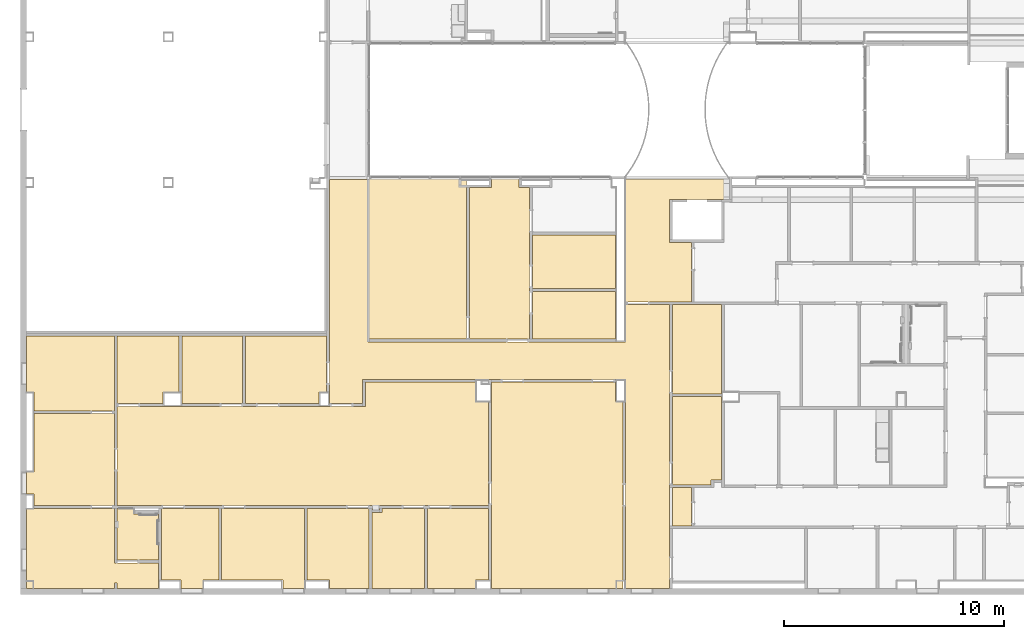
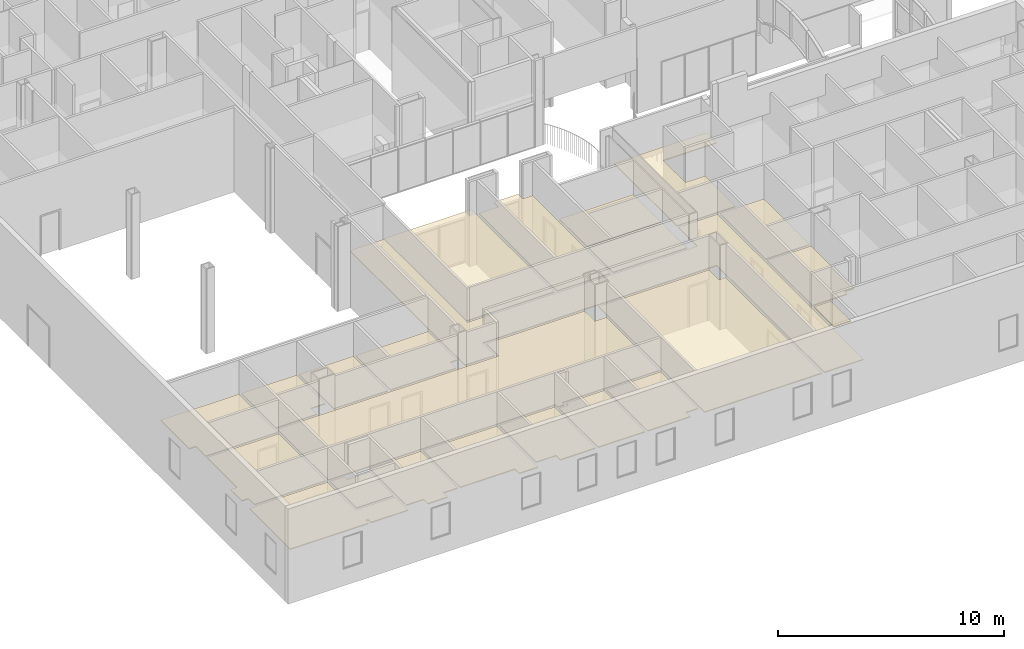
# One storey, part 25 of 45: 23 coverings.
"""IFC2X3 building model written with IfcOpenShell, lengths in metres."""

from ifc_helpers import new_model, entity, si_unit, converted_unit, frame, origin, place, context, project, spatial, face_set, surface_model, material, layer, layer_set, layer_usage, element, save


model = new_model("IFC2X3")

# Units and contexts
model_context = context("Model", 3, precision=1e-09, world=origin())
plan_context = context("Plan", 3, precision=1e-09, world=origin())
ifc_project = project(units=[si_unit("LENGTHUNIT", "METRE"), si_unit("AREAUNIT", "SQUARE_METRE"), si_unit("VOLUMEUNIT", "CUBIC_METRE"), converted_unit("PLANEANGLEUNIT", "DEGREE", entity("IfcRatioMeasure", 0.01745329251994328), si_unit("PLANEANGLEUNIT", "RADIAN"), dimensions=[0, 0, 0, 0, 0, 0, 0]), si_unit("TIMEUNIT", "SECOND")], contexts=[model_context, plan_context])

# Site, building, storey
site_placement = place(None, origin())
site = spatial("IfcSite", under=ifc_project, at=site_placement, Name="Default", CompositionType="ELEMENT")
building_placement = place(site_placement, origin())
building = spatial("IfcBuilding", under=site, at=building_placement, CompositionType="ELEMENT")
storey_placement = place(building_placement, frame((0.0, 0.0, 4.570000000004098)))
storey = spatial("IfcBuildingStorey", under=building, at=storey_placement, Name="Second Floor", CompositionType="ELEMENT", Elevation=4.570000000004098)

# Coverings
ifc_material_1 = material(Name="Default")
ifc_layer_1 = layer(ifc_material_1, 0.03599999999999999)
ifc_material_2 = material(Name="Ceiling Tile 600 x 600")
ifc_layer_2 = layer(ifc_material_2, 0.016)
ifc_layer_set = layer_set([ifc_layer_1, ifc_layer_2], Name="Compound Ceiling:ACT 600 x 600mm Grid")
ifc_layer_usage = layer_usage(ifc_layer_set, "AXIS3", "NEGATIVE", 0.0)
covering_1_placement = place(storey_placement, origin())
element("IfcCovering", 1, at=covering_1_placement, inside=storey, material=ifc_layer_usage, Name="Compound Ceiling:ACT 600 x 600mm Grid", ObjectType="Compound Ceiling:ACT 600 x 600mm Grid", PredefinedType="CEILING", context=model_context, shape_type="SurfaceModel", body=[
    surface_model("IfcFaceBasedSurfaceModel", [(-19.83000000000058, 22.97443871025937, 2.732000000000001), (-19.83000000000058, 28.54543871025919, 2.732000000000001), (-15.10997500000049, 28.54543871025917, 2.732000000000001), (-15.1099750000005, 27.64589999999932, 2.732000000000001), (-17.82920000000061, 27.64589999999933, 2.732000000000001), (-17.82920000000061, 25.68339999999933, 2.732000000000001), (-16.83000000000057, 25.68339999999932, 2.732000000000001), (-16.83000000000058, 22.97443871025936, 2.732000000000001), (-19.83000000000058, 22.97443871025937, 2.680000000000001), (-19.83000000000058, 28.54543871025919, 2.680000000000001), (-15.10997500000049, 28.54543871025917, 2.680000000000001), (-15.1099750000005, 27.64589999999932, 2.680000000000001), (-17.82920000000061, 27.64589999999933, 2.680000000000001), (-17.82920000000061, 25.68339999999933, 2.680000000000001), (-16.83000000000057, 25.68339999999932, 2.680000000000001), (-16.83000000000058, 22.97443871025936, 2.680000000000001)], [face_set([[[0, 1, 2, 3, 4, 5, 6, 7]], [[8, 9, 10, 11, 12, 13, 14, 15]], [[7, 0, 8, 15]], [[6, 7, 15, 14]], [[5, 13, 14, 6]], [[4, 5, 13, 12]], [[3, 4, 12, 11]], [[2, 3, 11, 10]], [[1, 9, 10, 2]], [[0, 8, 9, 1]]])]),
])
covering_2_placement = place(storey_placement, origin())
element("IfcCovering", 2, at=covering_2_placement, inside=storey, material=ifc_layer_usage, Name="Compound Ceiling:ACT 600 x 600mm Grid", ObjectType="Compound Ceiling:ACT 600 x 600mm Grid", PredefinedType="CEILING", context=model_context, shape_type="SurfaceModel", body=[
    surface_model("IfcFaceBasedSurfaceModel", [(-24.07100000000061, 21.27843871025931, 2.732000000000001), (-24.0710000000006, 23.4604387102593, 2.732000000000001), (-20.29000000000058, 23.46043871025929, 2.732000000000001), (-20.29000000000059, 21.27843871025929, 2.732000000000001), (-24.07100000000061, 21.27843871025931, 2.680000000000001), (-24.0710000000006, 23.4604387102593, 2.680000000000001), (-20.29000000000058, 23.46043871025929, 2.680000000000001), (-20.29000000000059, 21.27843871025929, 2.680000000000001)], [face_set([[[0, 1, 2, 3]], [[4, 5, 6, 7]], [[3, 0, 4, 7]], [[2, 3, 7, 6]], [[1, 5, 6, 2]], [[0, 4, 5, 1]]])]),
])
covering_3_placement = place(storey_placement, origin())
element("IfcCovering", 3, at=covering_3_placement, inside=storey, material=ifc_layer_usage, Name="Compound Ceiling:ACT 600 x 600mm Grid", ObjectType="Compound Ceiling:ACT 600 x 600mm Grid", PredefinedType="CEILING", context=model_context, shape_type="SurfaceModel", body=[
    surface_model("IfcFaceBasedSurfaceModel", [(-20.29000000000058, 23.58443871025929, 2.732000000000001), (-24.0710000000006, 23.5844387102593, 2.732000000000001), (-24.0710000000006, 26.0244387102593, 2.732000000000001), (-20.29000000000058, 26.02443871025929, 2.732000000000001), (-20.29000000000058, 23.58443871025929, 2.680000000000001), (-24.0710000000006, 23.5844387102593, 2.680000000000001), (-24.0710000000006, 26.0244387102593, 2.680000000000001), (-20.29000000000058, 26.02443871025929, 2.680000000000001)], [face_set([[[0, 1, 2, 3]], [[4, 5, 6, 7]], [[3, 0, 4, 7]], [[2, 6, 7, 3]], [[1, 5, 6, 2]], [[0, 1, 5, 4]]])]),
])
covering_4_placement = place(storey_placement, origin())
element("IfcCovering", 4, at=covering_4_placement, inside=storey, material=ifc_layer_usage, Name="Compound Ceiling:ACT 600 x 600mm Grid", ObjectType="Compound Ceiling:ACT 600 x 600mm Grid", PredefinedType="CEILING", context=model_context, shape_type="SurfaceModel", body=[
    surface_model("IfcFaceBasedSurfaceModel", [(-31.55100000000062, 21.27843871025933, 2.732000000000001), (-31.55100000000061, 28.60743871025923, 2.732000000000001), (-27.06500000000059, 28.60743871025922, 2.732000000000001), (-27.0650000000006, 21.27843871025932, 2.732000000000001), (-31.55100000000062, 21.27843871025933, 2.680000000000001), (-31.55100000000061, 28.60743871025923, 2.680000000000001), (-27.06500000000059, 28.60743871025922, 2.680000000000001), (-27.0650000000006, 21.27843871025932, 2.680000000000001)], [face_set([[[0, 1, 2, 3]], [[4, 5, 6, 7]], [[3, 0, 4, 7]], [[2, 3, 7, 6]], [[1, 5, 6, 2]], [[0, 4, 5, 1]]])]),
])
covering_5_placement = place(storey_placement, origin())
element("IfcCovering", 5, at=covering_5_placement, inside=storey, material=ifc_layer_usage, Name="Compound Ceiling:ACT 600 x 600mm Grid", ObjectType="Compound Ceiling:ACT 600 x 600mm Grid", PredefinedType="CEILING", context=model_context, shape_type="SurfaceModel", body=[
    surface_model("IfcFaceBasedSurfaceModel", [(-43.11000000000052, 13.58043871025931, 2.732000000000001), (-43.11000000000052, 11.09443871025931, 2.732000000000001), (-41.09000000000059, 11.0944387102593, 2.732000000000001), (-41.09000000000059, 9.926999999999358, 2.732000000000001), (-42.98600000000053, 9.926999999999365, 2.732000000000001), (-42.98600000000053, 10.1794387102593, 2.732000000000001), (-43.11000000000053, 10.1794387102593, 2.732000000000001), (-43.11000000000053, 9.926999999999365, 2.732000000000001), (-47.11300000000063, 9.926999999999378, 2.732000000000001), (-47.11300000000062, 13.5384387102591, 2.732000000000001), (-46.77000000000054, 13.5384387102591, 2.732000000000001), (-46.77000000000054, 13.58043871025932, 2.732000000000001), (-43.11000000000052, 13.58043871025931, 2.680000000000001), (-46.77000000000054, 13.58043871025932, 2.680000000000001), (-46.77000000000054, 13.5384387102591, 2.680000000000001), (-47.11300000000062, 13.5384387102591, 2.680000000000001), (-47.11300000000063, 9.926999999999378, 2.680000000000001), (-43.11000000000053, 9.926999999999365, 2.680000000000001), (-43.11000000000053, 10.1794387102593, 2.680000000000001), (-42.98600000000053, 10.1794387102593, 2.680000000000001), (-42.98600000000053, 9.926999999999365, 2.680000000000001), (-41.09000000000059, 9.926999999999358, 2.680000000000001), (-41.09000000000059, 11.0944387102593, 2.680000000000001), (-43.11000000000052, 11.09443871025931, 2.680000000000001)], [face_set([[[0, 1, 2, 3, 4, 5, 6, 7, 8, 9, 10, 11]], [[12, 13, 14, 15, 16, 17, 18, 19, 20, 21, 22, 23]], [[11, 13, 12, 0]], [[10, 14, 13, 11]], [[9, 15, 14, 10]], [[8, 16, 15, 9]], [[7, 8, 16, 17]], [[6, 7, 17, 18]], [[5, 6, 18, 19]], [[4, 20, 19, 5]], [[3, 4, 20, 21]], [[2, 3, 21, 22]], [[1, 23, 22, 2]], [[0, 1, 23, 12]]])]),
])
covering_6_placement = place(storey_placement, origin())
element("IfcCovering", 6, at=covering_6_placement, inside=storey, material=ifc_layer_usage, Name="Compound Ceiling:ACT 600 x 600mm Grid", ObjectType="Compound Ceiling:ACT 600 x 600mm Grid", PredefinedType="CEILING", context=model_context, shape_type="SurfaceModel", body=[
    surface_model("IfcFaceBasedSurfaceModel", [(-25.93000000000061, 28.18443871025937, 2.732000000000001), (-25.93000000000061, 28.60743871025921, 2.732000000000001), (-24.6797500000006, 28.60743871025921, 2.732000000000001), (-24.6797500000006, 28.18443871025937, 2.732000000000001), (-24.19500000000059, 28.18443871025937, 2.732000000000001), (-24.1950000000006, 21.27843871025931, 2.732000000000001), (-26.9410000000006, 21.27843871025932, 2.732000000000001), (-26.94100000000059, 28.18443871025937, 2.732000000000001), (-25.93000000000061, 28.18443871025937, 2.680000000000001), (-25.93000000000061, 28.60743871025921, 2.680000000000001), (-24.6797500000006, 28.60743871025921, 2.680000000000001), (-24.6797500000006, 28.18443871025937, 2.680000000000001), (-24.19500000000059, 28.18443871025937, 2.680000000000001), (-24.1950000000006, 21.27843871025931, 2.680000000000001), (-26.9410000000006, 21.27843871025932, 2.680000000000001), (-26.94100000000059, 28.18443871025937, 2.680000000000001)], [face_set([[[0, 1, 2, 3, 4, 5, 6, 7]], [[8, 9, 10, 11, 12, 13, 14, 15]], [[7, 15, 8, 0]], [[6, 14, 15, 7]], [[5, 6, 14, 13]], [[4, 5, 13, 12]], [[3, 11, 12, 4]], [[2, 3, 11, 10]], [[1, 9, 10, 2]], [[0, 8, 9, 1]]])]),
])
covering_7_placement = place(storey_placement, origin())
element("IfcCovering", 7, at=covering_7_placement, inside=storey, material=ifc_layer_usage, Name="Compound Ceiling:ACT 600 x 600mm Grid", ObjectType="Compound Ceiling:ACT 600 x 600mm Grid", PredefinedType="CEILING", context=model_context, shape_type="SurfaceModel", body=[
    surface_model("IfcFaceBasedSurfaceModel", [(-31.50900000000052, 9.926999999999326, 2.732000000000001), (-33.3200000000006, 9.926999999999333, 2.732000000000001), (-33.3200000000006, 10.30433433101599, 2.732000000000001), (-34.33004823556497, 10.30433433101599, 2.732000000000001), (-34.33004823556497, 13.58043871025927, 2.732000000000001), (-31.50900000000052, 13.58043871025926, 2.732000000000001), (-31.50900000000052, 9.926999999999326, 2.680000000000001), (-33.3200000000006, 9.926999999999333, 2.680000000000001), (-33.3200000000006, 10.30433433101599, 2.680000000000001), (-34.33004823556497, 10.30433433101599, 2.680000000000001), (-34.33004823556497, 13.58043871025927, 2.680000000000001), (-31.50900000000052, 13.58043871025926, 2.680000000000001)], [face_set([[[0, 1, 2, 3, 4, 5]], [[6, 7, 8, 9, 10, 11]], [[5, 0, 6, 11]], [[4, 10, 11, 5]], [[3, 9, 10, 4]], [[2, 3, 9, 8]], [[1, 7, 8, 2]], [[0, 1, 7, 6]]])]),
])
covering_8_placement = place(storey_placement, origin())
element("IfcCovering", 8, at=covering_8_placement, inside=storey, material=ifc_layer_usage, Name="Compound Ceiling:ACT 600 x 600mm Grid", ObjectType="Compound Ceiling:ACT 600 x 600mm Grid", PredefinedType="CEILING", context=model_context, shape_type="SurfaceModel", body=[
    surface_model("IfcFaceBasedSurfaceModel", [(-37.14000000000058, 21.41443871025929, 2.732000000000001), (-33.44400000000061, 21.41443871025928, 2.732000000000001), (-33.44400000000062, 18.87443871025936, 2.732000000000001), (-33.78000000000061, 18.87443871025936, 2.732000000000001), (-33.78000000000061, 18.34843871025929, 2.732000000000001), (-37.14000000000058, 18.3484387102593, 2.732000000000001), (-37.14000000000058, 21.41443871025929, 2.680000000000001), (-33.44400000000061, 21.41443871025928, 2.680000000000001), (-33.44400000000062, 18.87443871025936, 2.680000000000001), (-33.78000000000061, 18.87443871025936, 2.680000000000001), (-33.78000000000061, 18.34843871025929, 2.680000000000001), (-37.14000000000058, 18.3484387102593, 2.680000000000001)], [face_set([[[0, 1, 2, 3, 4, 5]], [[6, 7, 8, 9, 10, 11]], [[5, 11, 6, 0]], [[4, 5, 11, 10]], [[3, 4, 10, 9]], [[2, 3, 9, 8]], [[1, 2, 8, 7]], [[0, 6, 7, 1]]])]),
])
covering_9_placement = place(storey_placement, origin())
element("IfcCovering", 9, at=covering_9_placement, inside=storey, material=ifc_layer_usage, Name="Compound Ceiling:ACT 600 x 600mm Grid", ObjectType="Compound Ceiling:ACT 600 x 600mm Grid", PredefinedType="CEILING", context=model_context, shape_type="SurfaceModel", body=[
    surface_model("IfcFaceBasedSurfaceModel", [(-42.98600000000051, 13.5804387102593, 2.732000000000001), (-42.24330308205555, 13.5804387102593, 2.732000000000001), (-42.24330308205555, 13.32443871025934, 2.732000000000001), (-41.09000000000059, 13.32443871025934, 2.732000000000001), (-41.09000000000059, 11.21843871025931, 2.732000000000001), (-42.98600000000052, 11.21843871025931, 2.732000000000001), (-42.98600000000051, 13.5804387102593, 2.680000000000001), (-42.24330308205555, 13.5804387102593, 2.680000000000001), (-42.24330308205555, 13.32443871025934, 2.680000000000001), (-41.09000000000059, 13.32443871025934, 2.680000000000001), (-41.09000000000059, 11.21843871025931, 2.680000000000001), (-42.98600000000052, 11.21843871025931, 2.680000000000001)], [face_set([[[0, 1, 2, 3, 4, 5]], [[6, 7, 8, 9, 10, 11]], [[5, 11, 6, 0]], [[4, 5, 11, 10]], [[3, 4, 10, 9]], [[2, 8, 9, 3]], [[1, 2, 8, 7]], [[0, 6, 7, 1]]])]),
])
covering_10_placement = place(storey_placement, origin())
element("IfcCovering", 10, at=covering_10_placement, inside=storey, material=ifc_layer_usage, Name="Compound Ceiling:ACT 600 x 600mm Grid", ObjectType="Compound Ceiling:ACT 600 x 600mm Grid", PredefinedType="CEILING", context=model_context, shape_type="SurfaceModel", body=[
    surface_model("IfcFaceBasedSurfaceModel", [(-47.11300000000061, 18.87443871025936, 2.732000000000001), (-46.77000000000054, 18.87443871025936, 2.732000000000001), (-46.77000000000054, 18.01443871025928, 2.732000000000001), (-43.11000000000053, 18.01443871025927, 2.732000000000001), (-43.11000000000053, 21.41443871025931, 2.732000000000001), (-47.11300000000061, 21.41443871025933, 2.732000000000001), (-47.11300000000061, 18.87443871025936, 2.680000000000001), (-47.11300000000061, 21.41443871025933, 2.680000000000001), (-43.11000000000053, 21.41443871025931, 2.680000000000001), (-43.11000000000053, 18.01443871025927, 2.680000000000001), (-46.77000000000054, 18.01443871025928, 2.680000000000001), (-46.77000000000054, 18.87443871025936, 2.680000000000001)], [face_set([[[0, 1, 2, 3, 4, 5]], [[6, 7, 8, 9, 10, 11]], [[2, 10, 11, 1]], [[3, 2, 10, 9]], [[4, 3, 9, 8]], [[5, 7, 8, 4]], [[0, 6, 7, 5]], [[1, 0, 6, 11]]])]),
])
covering_11_placement = place(storey_placement, origin())
element("IfcCovering", 11, at=covering_11_placement, inside=storey, material=ifc_layer_usage, Name="Compound Ceiling:ACT 600 x 600mm Grid", ObjectType="Compound Ceiling:ACT 600 x 600mm Grid", PredefinedType="CEILING", context=model_context, shape_type="SurfaceModel", body=[
    surface_model("IfcFaceBasedSurfaceModel", [(-26.6700000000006, 9.926999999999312, 2.732000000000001), (-26.6700000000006, 10.30443871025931, 2.732000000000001), (-26.06400000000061, 10.3044387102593, 2.732000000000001), (-26.0640000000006, 13.58043871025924, 2.732000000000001), (-28.85500000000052, 13.58043871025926, 2.732000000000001), (-28.85500000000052, 9.92699999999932, 2.732000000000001), (-26.6700000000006, 9.926999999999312, 2.680000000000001), (-28.85500000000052, 9.92699999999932, 2.680000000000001), (-28.85500000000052, 13.58043871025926, 2.680000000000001), (-26.0640000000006, 13.58043871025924, 2.680000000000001), (-26.06400000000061, 10.3044387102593, 2.680000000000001), (-26.6700000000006, 10.30443871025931, 2.680000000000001)], [face_set([[[0, 1, 2, 3, 4, 5]], [[6, 7, 8, 9, 10, 11]], [[2, 1, 11, 10]], [[3, 2, 10, 9]], [[4, 8, 9, 3]], [[5, 7, 8, 4]], [[0, 5, 7, 6]], [[1, 0, 6, 11]]])]),
])
covering_12_placement = place(storey_placement, origin())
element("IfcCovering", 12, at=covering_12_placement, inside=storey, material=ifc_layer_usage, Name="Compound Ceiling:ACT 600 x 600mm Grid", ObjectType="Compound Ceiling:ACT 600 x 600mm Grid", PredefinedType="CEILING", context=model_context, shape_type="SurfaceModel", body=[
    surface_model("IfcFaceBasedSurfaceModel", [(-37.26400000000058, 18.3484387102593, 2.732000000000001), (-40.03500000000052, 18.34843871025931, 2.732000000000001), (-40.03500000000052, 21.4144387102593, 2.732000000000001), (-37.26400000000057, 21.41443871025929, 2.732000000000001), (-37.26400000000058, 18.3484387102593, 2.680000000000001), (-40.03500000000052, 18.34843871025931, 2.680000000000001), (-40.03500000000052, 21.4144387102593, 2.680000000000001), (-37.26400000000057, 21.41443871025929, 2.680000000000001)], [face_set([[[0, 1, 2, 3]], [[4, 5, 6, 7]], [[3, 0, 4, 7]], [[2, 6, 7, 3]], [[1, 5, 6, 2]], [[0, 1, 5, 4]]])]),
])
covering_13_placement = place(storey_placement, origin())
element("IfcCovering", 13, at=covering_13_placement, inside=storey, material=ifc_layer_usage, Name="Compound Ceiling:ACT 600 x 600mm Grid", ObjectType="Compound Ceiling:ACT 600 x 600mm Grid", PredefinedType="CEILING", context=model_context, shape_type="SurfaceModel", body=[
    surface_model("IfcFaceBasedSurfaceModel", [(-39.08330308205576, 9.926999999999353, 2.732000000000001), (-39.08330308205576, 10.30433433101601, 2.732000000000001), (-38.34400000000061, 10.30433433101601, 2.732000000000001), (-38.34400000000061, 13.58043871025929, 2.732000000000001), (-40.96600000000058, 13.58043871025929, 2.732000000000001), (-40.96600000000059, 10.30433433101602, 2.732000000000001), (-40.08330308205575, 10.30433433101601, 2.732000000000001), (-40.08330308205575, 9.926999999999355, 2.732000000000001), (-39.08330308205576, 9.926999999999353, 2.680000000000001), (-40.08330308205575, 9.926999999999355, 2.680000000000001), (-40.08330308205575, 10.30433433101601, 2.680000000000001), (-40.96600000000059, 10.30433433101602, 2.680000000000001), (-40.96600000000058, 13.58043871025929, 2.680000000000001), (-38.34400000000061, 13.58043871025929, 2.680000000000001), (-38.34400000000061, 10.30433433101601, 2.680000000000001), (-39.08330308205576, 10.30433433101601, 2.680000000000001)], [face_set([[[0, 1, 2, 3, 4, 5, 6, 7]], [[8, 9, 10, 11, 12, 13, 14, 15]], [[2, 1, 15, 14]], [[3, 2, 14, 13]], [[4, 12, 13, 3]], [[5, 11, 12, 4]], [[6, 5, 11, 10]], [[7, 9, 10, 6]], [[0, 7, 9, 8]], [[1, 0, 8, 15]]])]),
])
covering_14_placement = place(storey_placement, origin())
element("IfcCovering", 14, at=covering_14_placement, inside=storey, material=ifc_layer_usage, Name="Compound Ceiling:ACT 600 x 600mm Grid", ObjectType="Compound Ceiling:ACT 600 x 600mm Grid", PredefinedType="CEILING", context=model_context, shape_type="SurfaceModel", body=[
    surface_model("IfcFaceBasedSurfaceModel", [(-17.83000000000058, 12.7864387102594, 2.732000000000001), (-17.83000000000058, 9.926999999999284, 2.732000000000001), (-19.8300000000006, 9.926999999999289, 2.732000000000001), (-19.83000000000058, 19.44443871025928, 2.732000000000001), (-31.80000000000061, 19.44443871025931, 2.732000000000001), (-31.80000000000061, 18.34843871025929, 2.732000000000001), (-33.32000000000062, 18.34843871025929, 2.732000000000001), (-33.3200000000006, 28.55843871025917, 2.732000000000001), (-31.55100000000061, 28.55843871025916, 2.732000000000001), (-31.55100000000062, 21.15443871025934, 2.732000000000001), (-19.83000000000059, 21.1544387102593, 2.732000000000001), (-19.83000000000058, 22.85043871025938, 2.732000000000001), (-17.83000000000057, 22.85043871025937, 2.732000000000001), (-17.83000000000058, 14.58643871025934, 2.732000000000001), (-17.83000000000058, 12.7864387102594, 2.680000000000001), (-17.83000000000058, 9.926999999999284, 2.680000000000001), (-19.8300000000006, 9.926999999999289, 2.680000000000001), (-19.83000000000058, 19.44443871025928, 2.680000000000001), (-31.80000000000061, 19.44443871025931, 2.680000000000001), (-31.80000000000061, 18.34843871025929, 2.680000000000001), (-33.32000000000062, 18.34843871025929, 2.680000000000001), (-33.3200000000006, 28.55843871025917, 2.680000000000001), (-31.55100000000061, 28.55843871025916, 2.680000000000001), (-31.55100000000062, 21.15443871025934, 2.680000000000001), (-19.83000000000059, 21.1544387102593, 2.680000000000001), (-19.83000000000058, 22.85043871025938, 2.680000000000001), (-17.83000000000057, 22.85043871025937, 2.680000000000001), (-17.83000000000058, 14.58643871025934, 2.680000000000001)], [face_set([[[0, 1, 2, 3, 4, 5, 6, 7, 8, 9, 10, 11, 12, 13]], [[14, 15, 16, 17, 18, 19, 20, 21, 22, 23, 24, 25, 26, 27]], [[13, 0, 14, 27]], [[12, 13, 27, 26]], [[11, 25, 26, 12]], [[10, 24, 25, 11]], [[9, 23, 24, 10]], [[8, 9, 23, 22]], [[7, 21, 22, 8]], [[6, 20, 21, 7]], [[5, 6, 20, 19]], [[4, 5, 19, 18]], [[3, 4, 18, 17]], [[2, 16, 17, 3]], [[1, 2, 16, 15]], [[0, 1, 15, 14]]])]),
])
covering_15_placement = place(storey_placement, origin())
element("IfcCovering", 15, at=covering_15_placement, inside=storey, material=ifc_layer_usage, Name="Compound Ceiling:ACT 600 x 600mm Grid", ObjectType="Compound Ceiling:ACT 600 x 600mm Grid", PredefinedType="CEILING", context=model_context, shape_type="SurfaceModel", body=[
    surface_model("IfcFaceBasedSurfaceModel", [(-28.97900000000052, 9.92699999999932, 2.732000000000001), (-31.38500000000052, 9.926999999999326, 2.732000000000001), (-31.38500000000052, 13.38543871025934, 2.732000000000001), (-30.91100000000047, 13.38543871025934, 2.732000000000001), (-30.91100000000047, 13.58043871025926, 2.732000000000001), (-28.97900000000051, 13.58043871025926, 2.732000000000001), (-28.97900000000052, 9.92699999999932, 2.680000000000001), (-31.38500000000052, 9.926999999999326, 2.680000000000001), (-31.38500000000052, 13.38543871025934, 2.680000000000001), (-30.91100000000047, 13.38543871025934, 2.680000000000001), (-30.91100000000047, 13.58043871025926, 2.680000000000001), (-28.97900000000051, 13.58043871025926, 2.680000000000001)], [face_set([[[0, 1, 2, 3, 4, 5]], [[6, 7, 8, 9, 10, 11]], [[5, 0, 6, 11]], [[4, 10, 11, 5]], [[3, 9, 10, 4]], [[2, 8, 9, 3]], [[1, 7, 8, 2]], [[0, 1, 7, 6]]])]),
])
covering_16_placement = place(storey_placement, origin())
element("IfcCovering", 16, at=covering_16_placement, inside=storey, material=ifc_layer_usage, Name="Compound Ceiling:ACT 600 x 600mm Grid", ObjectType="Compound Ceiling:ACT 600 x 600mm Grid", PredefinedType="CEILING", context=model_context, shape_type="SurfaceModel", body=[
    surface_model("IfcFaceBasedSurfaceModel", [(-34.45404823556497, 9.926999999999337, 2.732000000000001), (-35.42004823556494, 9.926999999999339, 2.732000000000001), (-35.42004823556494, 10.304334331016, 2.732000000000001), (-38.22000000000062, 10.30433433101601, 2.732000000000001), (-38.22000000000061, 13.58043871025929, 2.732000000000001), (-34.45404823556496, 13.58043871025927, 2.732000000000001), (-34.45404823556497, 9.926999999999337, 2.680000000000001), (-35.42004823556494, 9.926999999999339, 2.680000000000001), (-35.42004823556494, 10.304334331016, 2.680000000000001), (-38.22000000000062, 10.30433433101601, 2.680000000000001), (-38.22000000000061, 13.58043871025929, 2.680000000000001), (-34.45404823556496, 13.58043871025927, 2.680000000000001)], [face_set([[[0, 1, 2, 3, 4, 5]], [[6, 7, 8, 9, 10, 11]], [[5, 0, 6, 11]], [[4, 10, 11, 5]], [[3, 9, 10, 4]], [[2, 3, 9, 8]], [[1, 7, 8, 2]], [[0, 1, 7, 6]]])]),
])
covering_17_placement = place(storey_placement, origin())
element("IfcCovering", 17, at=covering_17_placement, inside=storey, material=ifc_layer_usage, Name="Compound Ceiling:ACT 600 x 600mm Grid", ObjectType="Compound Ceiling:ACT 600 x 600mm Grid", PredefinedType="CEILING", context=model_context, shape_type="SurfaceModel", body=[
    surface_model("IfcFaceBasedSurfaceModel", [(-16.83000000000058, 14.52443871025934, 2.732000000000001), (-16.83000000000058, 12.77999999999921, 2.732000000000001), (-17.70600000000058, 12.77999999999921, 2.732000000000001), (-17.70600000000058, 14.52443871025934, 2.732000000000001), (-16.83000000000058, 14.52443871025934, 2.680000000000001), (-16.83000000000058, 12.77999999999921, 2.680000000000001), (-17.70600000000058, 12.77999999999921, 2.680000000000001), (-17.70600000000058, 14.52443871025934, 2.680000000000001)], [face_set([[[0, 1, 2, 3]], [[4, 5, 6, 7]], [[3, 7, 4, 0]], [[2, 6, 7, 3]], [[1, 2, 6, 5]], [[0, 1, 5, 4]]])]),
])
covering_18_placement = place(storey_placement, origin())
element("IfcCovering", 18, at=covering_18_placement, inside=storey, material=ifc_layer_usage, Name="Compound Ceiling:ACT 600 x 600mm Grid", ObjectType="Compound Ceiling:ACT 600 x 600mm Grid", PredefinedType="CEILING", context=model_context, shape_type="SurfaceModel", body=[
    surface_model("IfcFaceBasedSurfaceModel", [(-31.67600000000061, 19.32043871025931, 2.732000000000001), (-31.67600000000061, 18.22443871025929, 2.732000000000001), (-42.98600000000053, 18.22443871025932, 2.732000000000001), (-42.98600000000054, 13.7044387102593, 2.732000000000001), (-31.38500000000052, 13.70443871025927, 2.732000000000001), (-31.38500000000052, 13.50943871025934, 2.732000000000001), (-31.03500000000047, 13.50943871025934, 2.732000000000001), (-31.03500000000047, 13.70443871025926, 2.732000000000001), (-26.0640000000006, 13.70443871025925, 2.732000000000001), (-26.06400000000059, 18.41443871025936, 2.732000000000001), (-26.66000000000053, 18.41443871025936, 2.732000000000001), (-26.66000000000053, 19.3204387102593, 2.732000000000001), (-31.67600000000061, 19.32043871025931, 2.680000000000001), (-26.66000000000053, 19.3204387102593, 2.680000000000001), (-26.66000000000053, 18.41443871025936, 2.680000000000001), (-26.06400000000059, 18.41443871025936, 2.680000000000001), (-26.0640000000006, 13.70443871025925, 2.680000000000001), (-31.03500000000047, 13.70443871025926, 2.680000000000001), (-31.03500000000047, 13.50943871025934, 2.680000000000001), (-31.38500000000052, 13.50943871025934, 2.680000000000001), (-31.38500000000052, 13.70443871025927, 2.680000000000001), (-42.98600000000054, 13.7044387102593, 2.680000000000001), (-42.98600000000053, 18.22443871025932, 2.680000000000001), (-31.67600000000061, 18.22443871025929, 2.680000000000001)], [face_set([[[0, 1, 2, 3, 4, 5, 6, 7, 8, 9, 10, 11]], [[12, 13, 14, 15, 16, 17, 18, 19, 20, 21, 22, 23]], [[1, 23, 12, 0]], [[2, 22, 23, 1]], [[3, 21, 22, 2]], [[4, 3, 21, 20]], [[5, 19, 20, 4]], [[6, 5, 19, 18]], [[7, 6, 18, 17]], [[8, 7, 17, 16]], [[9, 8, 16, 15]], [[10, 14, 15, 9]], [[11, 10, 14, 13]], [[0, 12, 13, 11]]])]),
])
covering_19_placement = place(storey_placement, origin())
element("IfcCovering", 19, at=covering_19_placement, inside=storey, material=ifc_layer_usage, Name="Compound Ceiling:ACT 600 x 600mm Grid", ObjectType="Compound Ceiling:ACT 600 x 600mm Grid", PredefinedType="CEILING", context=model_context, shape_type="SurfaceModel", body=[
    surface_model("IfcFaceBasedSurfaceModel", [(-42.98600000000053, 18.34843871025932, 2.732000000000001), (-42.98600000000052, 21.41443871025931, 2.732000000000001), (-40.15900000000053, 21.4144387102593, 2.732000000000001), (-40.15900000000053, 18.87443871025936, 2.732000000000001), (-40.89000000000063, 18.87443871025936, 2.732000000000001), (-40.89000000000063, 18.34843871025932, 2.732000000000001), (-42.98600000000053, 18.34843871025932, 2.680000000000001), (-42.98600000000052, 21.41443871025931, 2.680000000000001), (-40.15900000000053, 21.4144387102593, 2.680000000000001), (-40.15900000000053, 18.87443871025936, 2.680000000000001), (-40.89000000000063, 18.87443871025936, 2.680000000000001), (-40.89000000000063, 18.34843871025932, 2.680000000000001)], [face_set([[[0, 1, 2, 3, 4, 5]], [[6, 7, 8, 9, 10, 11]], [[5, 0, 6, 11]], [[4, 5, 11, 10]], [[3, 4, 10, 9]], [[2, 3, 9, 8]], [[1, 7, 8, 2]], [[0, 6, 7, 1]]])]),
])
covering_20_placement = place(storey_placement, origin())
element("IfcCovering", 20, at=covering_20_placement, inside=storey, material=ifc_layer_usage, Name="Compound Ceiling:ACT 600 x 600mm Grid", ObjectType="Compound Ceiling:ACT 600 x 600mm Grid", PredefinedType="CEILING", context=model_context, shape_type="SurfaceModel", body=[
    surface_model("IfcFaceBasedSurfaceModel", [(-19.95400000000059, 9.926999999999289, 2.732000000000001), (-25.94000000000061, 9.926999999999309, 2.732000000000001), (-25.9400000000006, 19.32043871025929, 2.732000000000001), (-20.29000000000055, 19.32043871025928, 2.732000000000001), (-20.29000000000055, 18.43053029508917, 2.732000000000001), (-19.95400000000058, 18.43053029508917, 2.732000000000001), (-19.95400000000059, 9.926999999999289, 2.680000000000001), (-25.94000000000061, 9.926999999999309, 2.680000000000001), (-25.9400000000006, 19.32043871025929, 2.680000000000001), (-20.29000000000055, 19.32043871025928, 2.680000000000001), (-20.29000000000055, 18.43053029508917, 2.680000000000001), (-19.95400000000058, 18.43053029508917, 2.680000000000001)], [face_set([[[0, 1, 2, 3, 4, 5]], [[6, 7, 8, 9, 10, 11]], [[5, 0, 6, 11]], [[4, 10, 11, 5]], [[3, 4, 10, 9]], [[2, 8, 9, 3]], [[1, 7, 8, 2]], [[0, 1, 7, 6]]])]),
])
covering_21_placement = place(storey_placement, origin())
element("IfcCovering", 21, at=covering_21_placement, inside=storey, material=ifc_layer_usage, Name="Compound Ceiling:ACT 600 x 600mm Grid", ObjectType="Compound Ceiling:ACT 600 x 600mm Grid", PredefinedType="CEILING", context=model_context, shape_type="SurfaceModel", body=[
    surface_model("IfcFaceBasedSurfaceModel", [(-47.11300000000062, 14.22735389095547, 2.732000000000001), (-46.77000000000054, 14.22735389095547, 2.732000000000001), (-46.77000000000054, 13.70443871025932, 2.732000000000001), (-43.11000000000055, 13.7044387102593, 2.732000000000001), (-43.11000000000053, 17.89043871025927, 2.732000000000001), (-46.77000000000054, 17.89043871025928, 2.732000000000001), (-46.77000000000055, 15.22735389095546, 2.732000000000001), (-47.11300000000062, 15.22735389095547, 2.732000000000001), (-47.11300000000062, 14.22735389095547, 2.680000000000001), (-47.11300000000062, 15.22735389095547, 2.680000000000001), (-46.77000000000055, 15.22735389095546, 2.680000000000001), (-46.77000000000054, 17.89043871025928, 2.680000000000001), (-43.11000000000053, 17.89043871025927, 2.680000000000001), (-43.11000000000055, 13.7044387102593, 2.680000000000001), (-46.77000000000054, 13.70443871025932, 2.680000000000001), (-46.77000000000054, 14.22735389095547, 2.680000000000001)], [face_set([[[0, 1, 2, 3, 4, 5, 6, 7]], [[8, 9, 10, 11, 12, 13, 14, 15]], [[2, 14, 15, 1]], [[3, 2, 14, 13]], [[4, 3, 13, 12]], [[5, 11, 12, 4]], [[6, 10, 11, 5]], [[7, 9, 10, 6]], [[0, 8, 9, 7]], [[1, 0, 8, 15]]])]),
])
covering_22_placement = place(storey_placement, origin())
element("IfcCovering", 22, at=covering_22_placement, inside=storey, material=ifc_layer_usage, Name="Compound Ceiling:ACT 600 x 600mm Grid", ObjectType="Compound Ceiling:ACT 600 x 600mm Grid", PredefinedType="CEILING", context=model_context, shape_type="SurfaceModel", body=[
    surface_model("IfcFaceBasedSurfaceModel", [(-17.70600000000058, 14.64843871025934, 2.732000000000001), (-17.70600000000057, 18.66045405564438, 2.732000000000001), (-15.46000000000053, 18.66045405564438, 2.732000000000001), (-15.46000000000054, 14.87343871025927, 2.732000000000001), (-15.93400000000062, 14.87343871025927, 2.732000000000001), (-15.93400000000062, 14.64843871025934, 2.732000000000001), (-17.70600000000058, 14.64843871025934, 2.680000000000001), (-17.70600000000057, 18.66045405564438, 2.680000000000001), (-15.46000000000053, 18.66045405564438, 2.680000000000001), (-15.46000000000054, 14.87343871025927, 2.680000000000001), (-15.93400000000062, 14.87343871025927, 2.680000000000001), (-15.93400000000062, 14.64843871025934, 2.680000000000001)], [face_set([[[0, 1, 2, 3, 4, 5]], [[6, 7, 8, 9, 10, 11]], [[5, 0, 6, 11]], [[4, 5, 11, 10]], [[3, 4, 10, 9]], [[2, 3, 9, 8]], [[1, 7, 8, 2]], [[0, 6, 7, 1]]])]),
])
covering_23_placement = place(storey_placement, origin())
element("IfcCovering", 23, at=covering_23_placement, inside=storey, material=ifc_layer_usage, Name="Compound Ceiling:ACT 600 x 600mm Grid", ObjectType="Compound Ceiling:ACT 600 x 600mm Grid", PredefinedType="CEILING", context=model_context, shape_type="SurfaceModel", body=[
    surface_model("IfcFaceBasedSurfaceModel", [(-15.46000000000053, 18.78445405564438, 2.732000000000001), (-17.70600000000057, 18.78445405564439, 2.732000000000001), (-17.70600000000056, 22.85043871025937, 2.732000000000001), (-15.46000000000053, 22.85043871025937, 2.732000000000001), (-15.46000000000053, 18.78445405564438, 2.680000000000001), (-17.70600000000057, 18.78445405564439, 2.680000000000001), (-17.70600000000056, 22.85043871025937, 2.680000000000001), (-15.46000000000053, 22.85043871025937, 2.680000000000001)], [face_set([[[0, 1, 2, 3]], [[4, 5, 6, 7]], [[3, 0, 4, 7]], [[2, 6, 7, 3]], [[1, 5, 6, 2]], [[0, 1, 5, 4]]])]),
])

save(model, "model.ifc")
